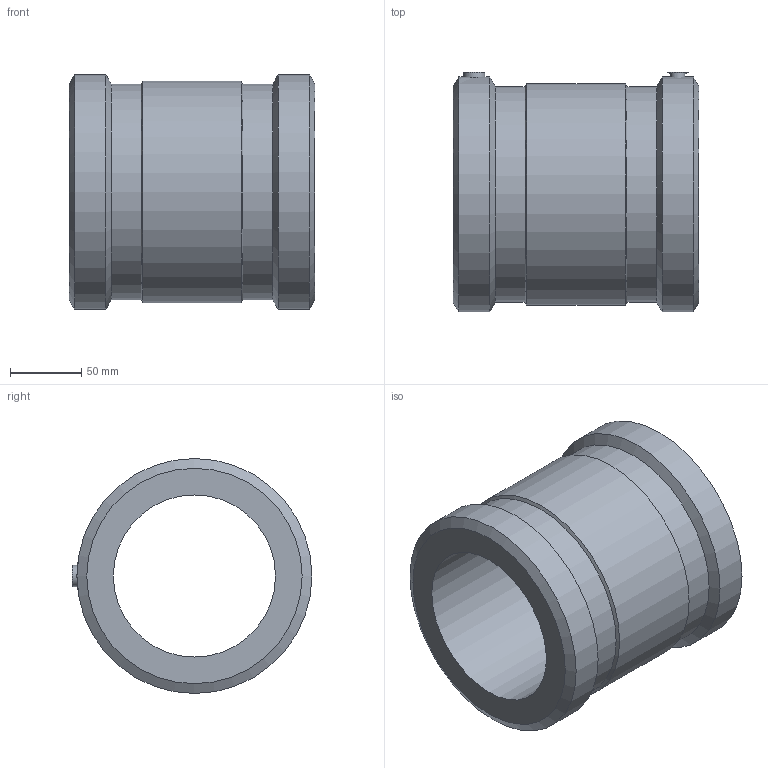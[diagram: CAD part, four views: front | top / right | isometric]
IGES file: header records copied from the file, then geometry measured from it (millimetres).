
Global section: file name: 5901D004040.ipt; native system: Autodesk Inventor 2019; preprocessor: unknown; author: KIM; date: 20210830.100922; units: inch
Bounding box: 172.97 x 168.77 x 165.32 mm (x, y, z)
Volume: 1602326.9 mm3; surface area: 174096 mm2
Topology: 1 solids, 2 shells, 28 faces, 56 edges, 36 vertices
Faces by surface type: cylinder 9, plane 8, cone 6, revolution 3, bspline 2
Full cylindrical faces by diameter (mm): 4 x2, 15 x2, 151.547 x2, 155.956 x1, 165.324 x2
